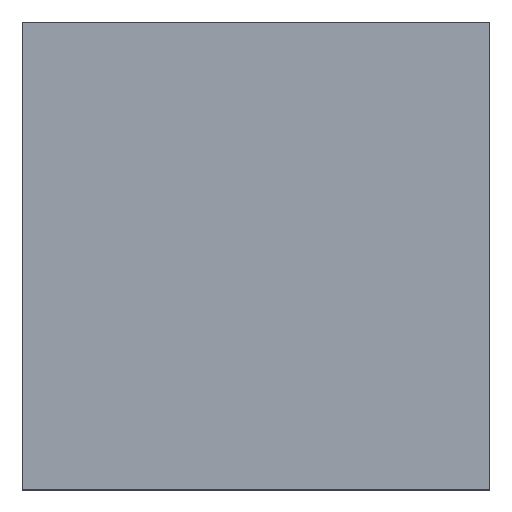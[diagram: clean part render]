
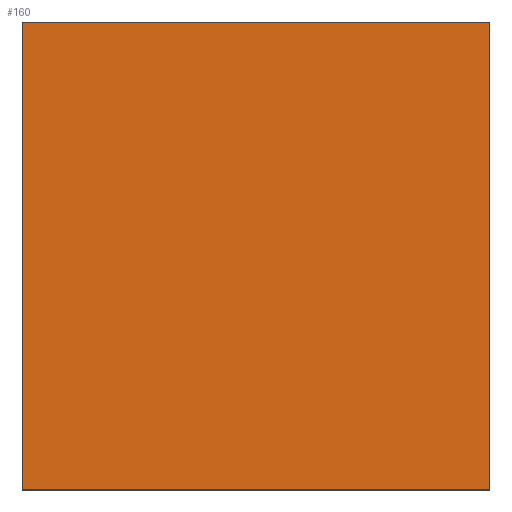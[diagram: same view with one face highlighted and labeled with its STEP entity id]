
A CAD part, top view. The second image highlights one B-rep face of the part: STEP entity #160.
In plain terms, the highlighted planar face has unit normal (0, 0, 1).
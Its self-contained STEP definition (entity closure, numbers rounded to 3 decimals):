
#160=ADVANCED_FACE('',(#182),#175,.T.);
#175=PLANE('',#331);
#182=FACE_OUTER_BOUND('',#184,.T.);
#184=EDGE_LOOP('',(#214,#215,#216,#217));
#214=ORIENTED_EDGE('',*,*,#282,.F.);
#215=ORIENTED_EDGE('',*,*,#283,.F.);
#216=ORIENTED_EDGE('',*,*,#284,.F.);
#217=ORIENTED_EDGE('',*,*,#285,.F.);
#262=VERTEX_POINT('',#422);
#263=VERTEX_POINT('',#423);
#264=VERTEX_POINT('',#425);
#265=VERTEX_POINT('',#427);
#282=EDGE_CURVE('',#262,#263,#306,.T.);
#283=EDGE_CURVE('',#264,#262,#307,.T.);
#284=EDGE_CURVE('',#265,#264,#308,.T.);
#285=EDGE_CURVE('',#263,#265,#309,.T.);
#306=LINE('',#421,#318);
#307=LINE('',#424,#319);
#308=LINE('',#426,#320);
#309=LINE('',#428,#321);
#318=VECTOR('',#358,1.);
#319=VECTOR('',#359,1.);
#320=VECTOR('',#360,1.);
#321=VECTOR('',#361,1.);
#331=AXIS2_PLACEMENT_3D('',#429,#362,#363);
#358=DIRECTION('',(-1.,0.,0.));
#359=DIRECTION('',(0.,-1.,0.));
#360=DIRECTION('',(1.,0.,0.));
#361=DIRECTION('',(0.,1.,0.));
#362=DIRECTION('',(0.,0.,1.));
#363=DIRECTION('',(1.,0.,0.));
#421=CARTESIAN_POINT('',(22.5,0.,45.));
#422=CARTESIAN_POINT('',(45.,0.,45.));
#423=CARTESIAN_POINT('',(0.,0.,45.));
#424=CARTESIAN_POINT('',(45.,22.5,45.));
#425=CARTESIAN_POINT('',(45.,45.,45.));
#426=CARTESIAN_POINT('',(22.5,45.,45.));
#427=CARTESIAN_POINT('',(0.,45.,45.));
#428=CARTESIAN_POINT('',(0.,22.5,45.));
#429=CARTESIAN_POINT('',(22.5,22.5,45.));
